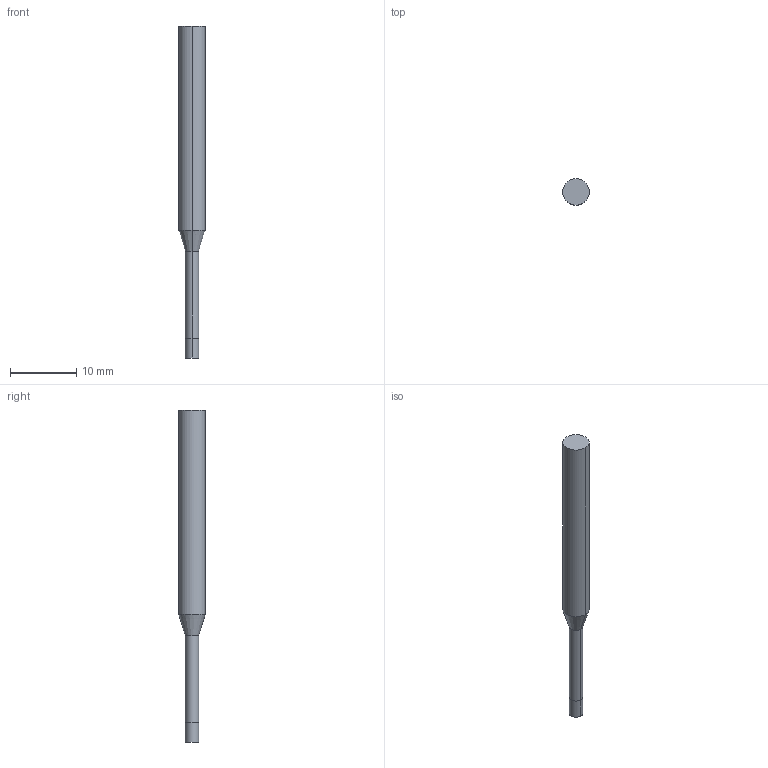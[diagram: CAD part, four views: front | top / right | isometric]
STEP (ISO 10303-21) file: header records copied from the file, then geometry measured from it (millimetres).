
FILE_DESCRIPTION((' '),'2;1');
FILE_NAME( '3MVSM0200N8AH.stp', '2026-01-21T19:27:43', (' '), ('--- Datakit www.datakit.com---'), ' Datakit CrossCadWare V2025.4 Sep 19 2025', 'Mastercam 2027', ' ');
FILE_SCHEMA(('AUTOMOTIVE_DESIGN { 1 0 10303 214 1 1 1 1 }'));
Length unit declared in the file: inch
Products named in the file (1): 3MVSM0200N8AH
Bounding box: 4 x 4 x 50 mm (x, y, z)
Volume: 460.4 mm3; surface area: 534.6 mm2
Topology: 1 solids, 1 shells, 10 faces, 18 edges, 10 vertices
Faces by surface type: cylinder 6, plane 2, cone 2
Entity records: 323 total; most frequent: DIRECTION 58, CARTESIAN_POINT 43, ORIENTED_EDGE 36, AXIS2_PLACEMENT_3D 25, EDGE_CURVE 18, VERTEX_POINT 10, CIRCLE 10, EDGE_LOOP 10
